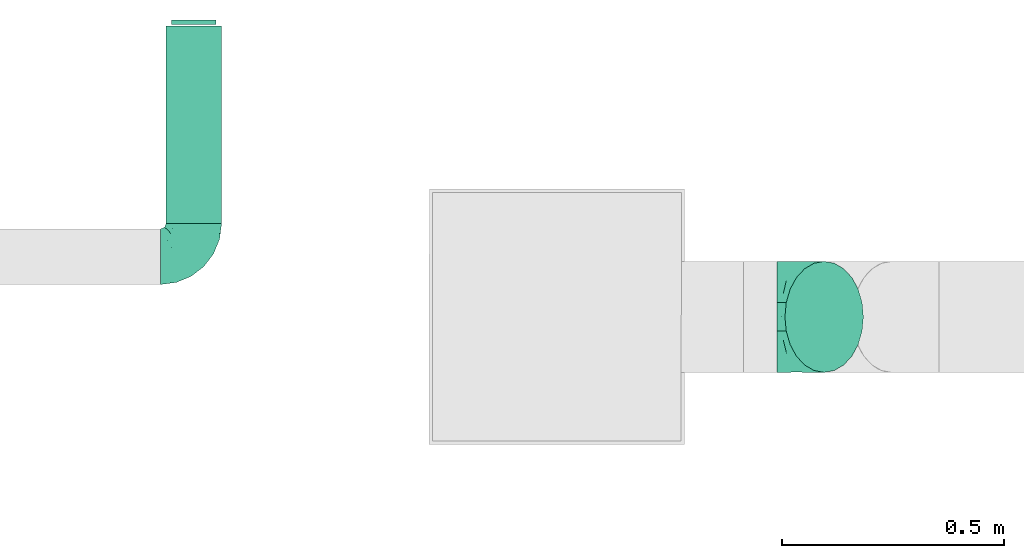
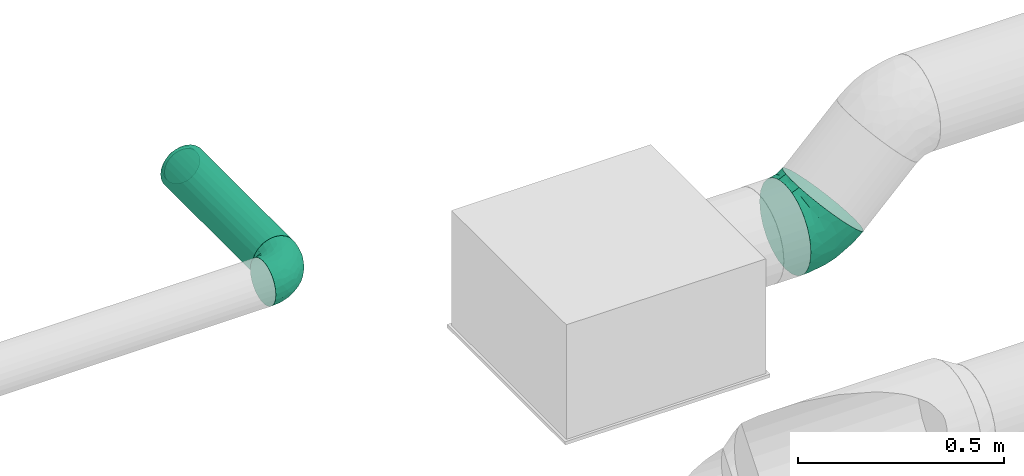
# One storey, part 47 of 63: 2 flow fittings, 1 flow segment, 1 flow terminal.
"""IFC2X3 building model written with IfcOpenShell, lengths in millimetres."""

import ifcopenshell
import ifcopenshell.guid

model = None  # the IFC model being written
_history = None  # IfcOwnerHistory: only IFC2X3 demands one
_inside = {}  # id of a spatial element -> (the spatial element, [elements in it])
_under = {}  # id of a project, library or spatial element -> (it, [spatial elements below it])
_declared = {}  # id of a project -> (the project, [libraries it declares])
_typed = {}  # id of a type object -> (the type object, [elements of that type])
_made_of = {}  # id of a material, layer set ... -> (it, [elements and type objects made of it])


def new_model(schema):
    """Start an empty IFC model of exactly this schema.

    Asked for "IFC4X3", IfcOpenShell would pick the latest addendum, in which some entities
    have other attributes; the version numbers below select the first issue.
    IFC2X3 requires an IfcOwnerHistory on every rooted entity: one is made here for all.
    """
    global model, _history
    if schema == "IFC4X3":
        model = ifcopenshell.file(schema_version=(4, 3, 0, 0))
    else:
        model = ifcopenshell.file(schema=schema)
    _inside.clear()
    _under.clear()
    _declared.clear()
    _typed.clear()
    _made_of.clear()
    _history = None
    if model.schema == "IFC2X3":
        org = make("IfcOrganization", Name="unknown")
        user = make(
            "IfcPersonAndOrganization",
            ThePerson=make("IfcPerson", FamilyName="unknown"),
            TheOrganization=org,
        )
        app = make(
            "IfcApplication",
            ApplicationDeveloper=org,
            Version="unknown",
            ApplicationFullName="unknown",
            ApplicationIdentifier="unknown",
        )
        _history = make(
            "IfcOwnerHistory",
            OwningUser=user,
            OwningApplication=app,
            ChangeAction="ADDED",
            CreationDate=0,
        )
    return model


def make(cls, **values):
    """One entity of the class cls with the attributes given. An attribute that is None is left unset."""
    return model.create_entity(
        cls, **{name: value for name, value in values.items() if value is not None}
    )


def entity(cls, *values):
    """Any entity or typed value of the class cls, its attributes in the order of the schema. None: left unset."""
    e = model.create_entity(cls)
    for i, value in enumerate(values):
        if value is not None:
            e[i] = value
    return e


def rooted(cls, **values):
    """An entity with a GlobalId (a new one), such as an element, a storey or a relation."""
    return make(cls, GlobalId=ifcopenshell.guid.new(), OwnerHistory=_history, **values)


def si_unit(unit_type, name, prefix=None):
    """IfcSIUnit, for example si_unit("LENGTHUNIT", "METRE", prefix="MILLI")."""
    return make("IfcSIUnit", UnitType=unit_type, Prefix=prefix, Name=name)


def converted_unit(unit_type, name, factor, base, dimensions=None, offset=None):
    """IfcConversionBasedUnit, such as the inch: factor (a typed value) times the base unit."""
    return make(
        "IfcConversionBasedUnit"
        if offset is None
        else "IfcConversionBasedUnitWithOffset",
        ConversionOffset=offset,
        Dimensions=None
        if dimensions is None
        else entity("IfcDimensionalExponents", *dimensions),
        UnitType=unit_type,
        Name=name,
        ConversionFactor=make(
            "IfcMeasureWithUnit", ValueComponent=factor, UnitComponent=base
        ),
    )


def derived_unit(unit_type, elements):
    """IfcDerivedUnit: a product of units, each with its exponent."""
    return make(
        "IfcDerivedUnit",
        Elements=[
            make("IfcDerivedUnitElement", Unit=unit, Exponent=power)
            for unit, power in elements
        ],
        UnitType=unit_type,
    )


def assignment(units):
    """IfcUnitAssignment: the units of a project."""
    return None if units is None else make("IfcUnitAssignment", Units=units)


def point(xyz):
    """IfcCartesianPoint."""
    return None if xyz is None else make("IfcCartesianPoint", Coordinates=xyz)


def direction(xyz):
    """IfcDirection."""
    return None if xyz is None else make("IfcDirection", DirectionRatios=xyz)


def frame(location, z_axis=None, x_axis=None):
    """IfcAxis2Placement3D, a coordinate frame: its origin and axes. An axis left out is left unset."""
    return make(
        "IfcAxis2Placement3D",
        Location=point(location),
        Axis=direction(z_axis),
        RefDirection=direction(x_axis),
    )


def frame_2d(location, x_axis=None):
    """IfcAxis2Placement2D, a coordinate frame in the plane: its origin and x axis."""
    return make(
        "IfcAxis2Placement2D", Location=point(location), RefDirection=direction(x_axis)
    )


def origin_with_axes():
    """The frame at (0, 0, 0) with the z axis (0, 0, 1) and the x axis (1, 0, 0) written out."""
    return frame((0.0, 0.0, 0.0), z_axis=(0.0, 0.0, 1.0), x_axis=(1.0, 0.0, 0.0))


def origin_2d_with_axis():
    """The frame at (0, 0) in the plane with the x axis (1, 0) written out."""
    return frame_2d((0.0, 0.0), x_axis=(1.0, 0.0))


def place(relative_to, where):
    """IfcLocalPlacement: puts the frame where relative to a parent placement (None: the world)."""
    return make(
        "IfcLocalPlacement", PlacementRelTo=relative_to, RelativePlacement=where
    )


def context(
    kind, dimensions, precision=None, world=None, true_north=None, identifier=None
):
    """IfcGeometricRepresentationContext, for example the 3D "Model" context."""
    return make(
        "IfcGeometricRepresentationContext",
        ContextIdentifier=identifier,
        ContextType=kind,
        CoordinateSpaceDimension=dimensions,
        Precision=precision,
        WorldCoordinateSystem=world,
        TrueNorth=true_north,
    )


def subcontext(parent, identifier, kind, view, scale=None):
    """IfcGeometricRepresentationSubContext, for example "Body" below "Model"."""
    return make(
        "IfcGeometricRepresentationSubContext",
        ContextIdentifier=identifier,
        ContextType=kind,
        ParentContext=parent,
        TargetScale=scale,
        TargetView=view,
    )


def project(units=None, contexts=None):
    """IfcProject with its units and contexts."""
    return rooted(
        "IfcProject",
        Name="project",
        RepresentationContexts=contexts,
        UnitsInContext=assignment(units),
    )


def spatial(cls, under=None, at=None, **own):
    """A site, building, storey or space (cls), placed at a placement, below another one or the project."""
    s = rooted(cls, ObjectPlacement=at, **own)
    if under is not None:
        _under.setdefault(under.id(), (under, []))[1].append(s)
    return s


def profile(cls, at=None, kind="AREA", **sizes):
    """A parametric profile (cls). Its sizes go by their IFC names, for example OverallWidth=200.0."""
    return make(cls, ProfileType=kind, Position=at, **sizes)


def hollow_circle(**sizes):
    """IfcCircleHollowProfileDef."""
    return profile("IfcCircleHollowProfileDef", **sizes)


def extrude(swept, where, along, depth):
    """IfcExtrudedAreaSolid: the profile swept, set in the frame where, extruded along a direction by depth."""
    return make(
        "IfcExtrudedAreaSolid",
        SweptArea=swept,
        Position=where,
        ExtrudedDirection=direction(along),
        Depth=depth,
    )


def faces_of(points, faces, orient=None, outer=None):
    """IfcFace entities. A face is a list of loops; a loop is a list of indices into points, from 0.

    orient and outer hold one flag for each loop. By default every Orientation is true, the
    first loop of a face is its IfcFaceOuterBound and the others are IfcFaceBound.
    """
    made = []
    for i, loops in enumerate(faces):
        bounds = []
        for j, loop in enumerate(loops):
            is_outer = j == 0 if outer is None else outer[i][j]
            bounds.append(
                make(
                    "IfcFaceOuterBound" if is_outer else "IfcFaceBound",
                    Bound=make("IfcPolyLoop", Polygon=[points[k] for k in loop]),
                    Orientation=True if orient is None else orient[i][j],
                )
            )
        made.append(make("IfcFace", Bounds=bounds))
    return made


def open_shell(faces, orient=None, outer=None):
    """The faces of one IfcOpenShell. surface_model builds it on its shared points."""
    return ("IfcOpenShell", faces, orient, outer)


def surface_model(cls, points, shells):
    """IfcFaceBasedSurfaceModel or IfcShellBasedSurfaceModel (cls): surfaces that need not close."""
    shared = [point(p) for p in points]
    made = [make(c, CfsFaces=faces_of(shared, fs, o, b)) for c, fs, o, b in shells]
    if cls == "IfcFaceBasedSurfaceModel":
        return make(cls, FbsmFaces=made)
    return make(cls, SbsmBoundary=made)


def shape(context_of_items, identifier, shape_type, items):
    """IfcShapeRepresentation: the items that make up one representation, for example the "Body"."""
    return make(
        "IfcShapeRepresentation",
        ContextOfItems=context_of_items,
        RepresentationIdentifier=identifier,
        RepresentationType=shape_type,
        Items=items,
    )


def source(mapping_origin, context_of_items, identifier, shape_type, items):
    """IfcRepresentationMap: a shape defined once, which mapped items show again and again."""
    return make(
        "IfcRepresentationMap",
        MappingOrigin=mapping_origin,
        MappedRepresentation=shape(context_of_items, identifier, shape_type, items),
    )


def transform(
    local_origin,
    x_axis=None,
    y_axis=None,
    z_axis=None,
    scale=None,
    scale2=None,
    scale3=None,
    uniform=True,
):
    """IfcCartesianTransformationOperator3D, or its non-uniform kind. x_axis, y_axis, z_axis: its Axis1, 2, 3."""
    if uniform:
        return make(
            "IfcCartesianTransformationOperator3D",
            Axis1=direction(x_axis),
            Axis2=direction(y_axis),
            LocalOrigin=point(local_origin),
            Scale=scale,
            Axis3=direction(z_axis),
        )
    return make(
        "IfcCartesianTransformationOperator3DnonUniform",
        Axis1=direction(x_axis),
        Axis2=direction(y_axis),
        LocalOrigin=point(local_origin),
        Scale=scale,
        Axis3=direction(z_axis),
        Scale2=scale2,
        Scale3=scale3,
    )


def mapped(mapping_source, mapping_target):
    """IfcMappedItem: shows the shape of a source again, moved by a transform."""
    return make(
        "IfcMappedItem", MappingSource=mapping_source, MappingTarget=mapping_target
    )


def made_of(thing, what):
    """Note that an element or type object is made of a material, layer set ...; save() writes the relation."""
    if what is not None:
        _made_of.setdefault(what.id(), (what, []))[1].append(thing)
    return thing


def type_object(cls, material=None, **own):
    """A type object (cls), such as IfcWallType, which elements share."""
    return made_of(rooted(cls, **own), material)


def element(
    cls,
    number,
    at=None,
    inside=None,
    cuts=None,
    type_object=None,
    material=None,
    context=None,
    identifier="Body",
    shape_type=None,
    held_by="IfcProductDefinitionShape",
    body=None,
    shapes=None,
    **own,
):
    """One element of the class cls, such as IfcWall. Its Tag is "e" and its number.

    at: its placement. inside: the storey or other place that contains it. cuts: it is an
    opening in that element (IfcRelVoidsElement). A single representation is given by context,
    identifier, shape_type and body (its items); several are given by shapes. held_by: the class
    of the entity that holds the representations. save() writes the other relations.
    """
    e = rooted(cls, Tag="e%d" % number, ObjectPlacement=at, **own)
    if body is not None:
        shapes = [shape(context, identifier, shape_type, body)]
    if shapes is not None:
        e.Representation = make(held_by, Representations=shapes)
    if inside is not None:
        _inside.setdefault(inside.id(), (inside, []))[1].append(e)
    if cuts is not None:
        rooted(
            "IfcRelVoidsElement", RelatingBuildingElement=cuts, RelatedOpeningElement=e
        )
    if type_object is not None:
        _typed.setdefault(type_object.id(), (type_object, []))[1].append(e)
    return made_of(e, material)


def aggregate(whole, parts):
    """IfcRelAggregates: a whole, such as a stair, and the parts it consists of."""
    return rooted("IfcRelAggregates", RelatingObject=whole, RelatedObjects=parts)


def save(model, path):
    """Write the relations noted so far, then the file.

    IfcRelAggregates (storeys below a building ...), IfcRelContainedInSpatialStructure (elements
    in a storey), IfcRelDefinesByType, IfcRelAssociatesMaterial and IfcRelDeclares: one each for
    every whole, place, type object, material and project.
    """
    for whole, parts in _under.values():
        aggregate(whole, parts)
    for where, things in _inside.values():
        rooted(
            "IfcRelContainedInSpatialStructure",
            RelatedElements=things,
            RelatingStructure=where,
        )
    for kind, things in _typed.values():
        rooted("IfcRelDefinesByType", RelatedObjects=things, RelatingType=kind)
    for what, things in _made_of.values():
        rooted("IfcRelAssociatesMaterial", RelatedObjects=things, RelatingMaterial=what)
    for by, libraries in _declared.values():
        rooted("IfcRelDeclares", RelatingContext=by, RelatedDefinitions=libraries)
    model.write(path)


model = new_model("IFC2X3")

# Units and contexts
model_context = context("Model", 3, precision=0.01, world=frame((0.0, 4.29681676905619e-09, 0.0)), true_north=direction((4.01073788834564e-13, 1.0)))
plan_context = context("Plan", 3, precision=0.01, world=frame((0.0, 4.29681676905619e-09, 0.0)), true_north=direction((4.01073788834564e-13, 1.0)))
body_context = subcontext(model_context, "Body", "Model", "MODEL_VIEW")
ifc_project = project(units=[converted_unit("PLANEANGLEUNIT", "DEGREE", entity("IfcPositiveLengthMeasure", 0.0174532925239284), si_unit("PLANEANGLEUNIT", "RADIAN"), dimensions=[0, 0, 0, 0, 0, 0, 0]), si_unit("AREAUNIT", "SQUARE_METRE"), si_unit("LENGTHUNIT", "METRE", prefix="MILLI"), si_unit("MASSUNIT", "GRAM", prefix="KILO"), si_unit("POWERUNIT", "WATT"), si_unit("PRESSUREUNIT", "PASCAL"), si_unit("FORCEUNIT", "NEWTON", prefix="KILO"), si_unit("ELECTRICVOLTAGEUNIT", "VOLT"), si_unit("ELECTRICCURRENTUNIT", "AMPERE"), si_unit("THERMODYNAMICTEMPERATUREUNIT", "DEGREE_CELSIUS"), si_unit("TIMEUNIT", "SECOND"), si_unit("VOLUMEUNIT", "CUBIC_METRE"), derived_unit("LINEARVELOCITYUNIT", [(si_unit("LENGTHUNIT", "METRE"), 1), (si_unit("TIMEUNIT", "SECOND"), -1)]), derived_unit("VOLUMETRICFLOWRATEUNIT", [(si_unit("VOLUMEUNIT", "CUBIC_METRE"), 1), (si_unit("TIMEUNIT", "SECOND"), -1)]), derived_unit("THERMALTRANSMITTANCEUNIT", [(si_unit("POWERUNIT", "WATT"), 1), (si_unit("THERMODYNAMICTEMPERATUREUNIT", "KELVIN"), -1), (si_unit("AREAUNIT", "SQUARE_METRE"), -1)]), derived_unit("SOUNDPRESSUREUNIT", [(si_unit("PRESSUREUNIT", "PASCAL"), 1)])], contexts=[model_context, plan_context])

# Site, building, storey
site_placement = place(None, frame((0.0, -4.29681676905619e-09, 0.0), z_axis=(0.0, 0.0, 1.0), x_axis=(1.0, 0.0, 0.0)))
site = spatial("IfcSite", under=ifc_project, at=site_placement, CompositionType="ELEMENT")
building_placement = place(site_placement, frame((0.0, 4.29681676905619e-09, 0.0), z_axis=(0.0, 0.0, 1.0), x_axis=(1.0, 0.0, 0.0)))
building = spatial("IfcBuilding", under=site, at=building_placement, Name="mc-building", CompositionType="ELEMENT")
storey_placement = place(building_placement, frame((0.0, 0.0, 210900.0), z_axis=(0.0, 0.0, 1.0), x_axis=(1.0, 0.0, 0.0)))
storey = spatial("IfcBuildingStorey", under=building, at=storey_placement, Name="Nivå F", CompositionType="ELEMENT", Elevation=210900.0)

# Flow fittings
duct_fitting_type = type_object("IfcDuctFittingType", Name="magicirc_elbow_short_001", PredefinedType="BEND")
shared_shape_1 = source(origin_with_axes(), body_context, "Body", "SurfaceModel", [
    surface_model("IfcShellBasedSurfaceModel", [(-62.13204, 0.0, -125.0), (-62.13204, -32.35238, -120.74073), (-62.13204, 32.35238, -120.74073), (-62.13204, 62.5, -108.25318), (-62.13204, 88.38835, -88.38835), (-62.13204, 108.25318, -62.5), (-62.13204, 120.74073, -32.35238), (-62.13204, -62.5, -108.25318), (-62.13204, -88.38835, -88.38835), (-62.13204, -125.0, 0.0), (-62.13204, -108.25318, -62.5), (-62.13204, -120.74073, -32.35238), (-62.13204, 125.0, 0.0), (-62.13204, -120.74073, 32.35238), (-62.13204, 120.74073, 32.35238), (-62.13204, 108.25318, 62.5), (-62.13204, 32.35238, 120.74073), (-62.13204, 62.5, 108.25318), (-62.13204, 88.38835, 88.38835), (-62.13204, -88.38835, 88.38835), (-62.13204, -108.25318, 62.5), (-62.13204, -32.35238, 120.74073), (-62.13204, 0.0, 125.0), (-62.13204, -62.5, 108.25318), (-32.61257, 120.48054, -62.5), (-41.44261, 129.31057, -32.35238), (-44.45436, 132.32233, 0.0), (-41.44261, 129.31057, 32.35238), (-32.61257, 120.48054, 62.5), (-39.32094, -100.77129, 72.52866), (-25.3983, -115.58366, 40.92131), (-9.38975, -99.61313, 67.6303), (-40.71594, 99.20513, 81.38635), (-18.56602, 106.43398, 88.38835), (6.93461, -16.74165, 121.22697), (-29.92798, -19.88945, 122.8817), (-17.69423, -50.99343, 111.83063), (-28.63512, 12.8945, 124.68547), (-43.55871, 45.16564, 117.17454), (-19.1971, 46.34588, 119.14586), (20.11216, -107.05726, 35.36285), (37.22525, -89.79474, 60.1728), (-42.64489, 65.81413, 107.6176), (18.18237, -43.89615, 109.72868), (-48.14682, 116.23669, 52.46898), (11.13029, 29.36587, 124.68547), (-8.4822, -119.71595, 0.0), (17.31186, -111.89141, 0.0), (-27.44697, 77.92943, 103.54984), (-1.13628, 62.73759, 117.17454), (-0.26019, 88.12816, 108.25318), (29.58221, -71.41779, 87.09722), (2.27359, -83.55864, 84.32151), (46.20365, -49.09439, 98.73245), (43.10591, -104.06687, 0.0), (-28.63512, 12.89449, -124.68547), (-29.92797, -19.88945, -122.8817), (11.13029, 29.36586, -124.68547), (-19.1971, 46.34588, -119.14586), (-43.55871, 45.16564, -117.17454), (-35.69649, 74.51237, -103.54983), (-25.3983, -115.58366, -40.92131), (-48.14682, 116.23669, -52.46898), (-39.32094, -100.77129, -72.52866), (-16.38313, 76.69211, -107.6176), (-18.56602, 106.43398, -88.38835), (-0.26019, 88.12816, -108.25318), (-17.69423, -50.99343, -111.83063), (6.93461, -16.74165, -121.22697), (-1.13628, 62.73759, -117.17454), (48.5695, -23.54609, -111.83063), (35.22623, 7.0983, -122.8817), (-9.38975, -99.61313, -67.63031), (2.04406, -67.38589, -98.73245), (29.58221, -71.41778, -87.09723), (43.93399, 43.934, -125.0), (106.43399, -18.56599, 88.38835), (132.32235, -44.45434, 0.0), (21.05739, 66.81058, -120.74073), (88.12817, -0.26017, 108.25318), (66.81057, 21.05741, -120.74073), (106.43399, -18.56599, -88.38835), (88.12817, -0.26017, -108.25318), (129.31058, -41.44258, -32.35238), (120.48055, -32.61255, -62.5), (21.05739, 66.81058, 120.74073), (43.93399, 43.934, 125.0), (129.31058, -41.44258, 32.35238), (120.48055, -32.61255, 62.5), (66.81057, 21.05741, 120.74073), (-31.08246, -121.94188, 0.0), (35.22622, 7.09831, 122.8817), (-25.98217, -78.69805, 94.74512), (-3.43913, -67.17105, 100.02812), (77.07669, -63.79755, 67.6303), (61.9235, -89.5906, 35.66991), (-52.56496, 126.90301, 0.0), (99.68931, -63.77067, 40.92131), (48.5695, -23.54609, 111.83062), (99.06018, -43.45194, 72.52866), (74.0201, -37.27574, 94.74512), (108.20455, -64.2473, 0.0), (90.64979, -78.65413, 0.0), (66.87785, -91.36049, 0.0), (19.56361, -107.13664, -35.66991), (-41.35812, 98.93914, -81.38635), (-25.98217, -78.69805, -94.74512), (61.47949, -89.92235, -35.36285), (18.18239, -43.89616, -109.72867), (57.47721, -60.69254, -84.32152), (74.02009, -37.27574, -94.74513), (77.07669, -63.79755, -67.6303), (37.17223, -89.81669, -60.17279), (99.68931, -63.77066, -40.92131), (99.06018, -43.45194, -72.52866), (49.92893, -45.06527, -100.02812)], [open_shell([[[0, 1, 2]], [[3, 2, 4]], [[1, 5, 2]], [[4, 2, 5]], [[5, 1, 6]], [[7, 8, 1]], [[9, 1, 8]], [[10, 11, 8]], [[9, 8, 11]], [[9, 6, 1]], [[9, 12, 6]], [[12, 13, 14]], [[15, 14, 16]], [[16, 17, 18]], [[15, 16, 18]], [[16, 14, 19]], [[20, 19, 13]], [[19, 14, 13]], [[21, 22, 23]], [[19, 23, 22]], [[19, 22, 16]], [[9, 13, 12]], [[24, 25, 26]], [[26, 27, 28]], [[29, 30, 31]], [[32, 33, 28]], [[30, 20, 13]], [[34, 35, 36]], [[21, 35, 22]], [[21, 23, 36]], [[16, 22, 37]], [[38, 37, 39]], [[31, 40, 41]], [[42, 17, 38]], [[38, 17, 16]], [[43, 34, 36]], [[35, 37, 22]], [[14, 15, 44]], [[42, 32, 18]], [[29, 19, 20]], [[40, 31, 30]], [[37, 45, 39]], [[45, 37, 34]], [[40, 46, 47]], [[42, 18, 17]], [[33, 32, 48]], [[27, 44, 28]], [[48, 39, 49]], [[33, 48, 50]], [[44, 32, 28]], [[18, 32, 15]], [[36, 35, 21]], [[37, 35, 34]], [[41, 51, 52]], [[14, 44, 27]], [[32, 44, 15]], [[37, 38, 16]], [[42, 39, 48]], [[39, 42, 38]], [[42, 48, 32]], [[48, 49, 50]], [[45, 49, 39]], [[30, 29, 20]], [[53, 43, 51]], [[46, 40, 30]], [[47, 54, 40]], [[41, 52, 31]], [[0, 2, 55]], [[56, 1, 0]], [[57, 55, 58]], [[59, 60, 58]], [[10, 61, 11]], [[3, 4, 60]], [[62, 6, 25]], [[61, 10, 63]], [[64, 65, 66]], [[1, 56, 67]], [[8, 63, 10]], [[7, 1, 67]], [[56, 55, 68]], [[25, 24, 62]], [[69, 64, 66]], [[2, 3, 59]], [[59, 55, 2]], [[69, 57, 58]], [[70, 68, 71]], [[55, 57, 68]], [[55, 56, 0]], [[67, 56, 68]], [[57, 71, 68]], [[6, 62, 5]], [[60, 59, 3]], [[55, 59, 58]], [[64, 58, 60]], [[58, 64, 69]], [[61, 63, 72]], [[72, 73, 74]], [[75, 76, 77]], [[66, 26, 78]], [[78, 79, 75]], [[24, 66, 65]], [[66, 24, 26]], [[80, 81, 82]], [[80, 75, 81]], [[81, 83, 84]], [[83, 81, 77]], [[75, 77, 81]], [[26, 28, 50]], [[50, 85, 26]], [[50, 28, 33]], [[26, 85, 86]], [[87, 76, 88]], [[77, 76, 87]], [[79, 86, 89]], [[76, 75, 79]], [[86, 79, 26]], [[78, 26, 79]], [[90, 46, 30]], [[91, 45, 34]], [[23, 92, 36]], [[52, 93, 92]], [[94, 41, 95]], [[23, 19, 92]], [[96, 14, 27]], [[40, 95, 41]], [[96, 12, 14]], [[94, 95, 97]], [[40, 54, 95]], [[98, 89, 91]], [[99, 88, 76]], [[89, 98, 79]], [[88, 99, 97]], [[88, 97, 87]], [[98, 100, 79]], [[53, 94, 100]], [[97, 101, 87]], [[85, 50, 49]], [[41, 94, 51]], [[30, 13, 90]], [[26, 96, 27]], [[95, 102, 97]], [[95, 54, 103]], [[86, 91, 89]], [[86, 85, 45]], [[45, 85, 49]], [[34, 43, 98]], [[29, 92, 19]], [[79, 100, 76]], [[52, 92, 31]], [[95, 103, 102]], [[53, 100, 98]], [[99, 100, 94]], [[45, 91, 86]], [[98, 91, 34]], [[13, 9, 90]], [[101, 97, 102]], [[101, 77, 87]], [[92, 29, 31]], [[100, 99, 76]], [[97, 99, 94]], [[93, 36, 92]], [[51, 43, 93]], [[51, 93, 52]], [[43, 36, 93]], [[43, 53, 98]], [[94, 53, 51]], [[104, 46, 61]], [[78, 75, 57]], [[4, 105, 60]], [[73, 72, 106]], [[80, 82, 70]], [[61, 90, 11]], [[83, 77, 101]], [[106, 7, 67]], [[107, 102, 103]], [[104, 54, 47]], [[72, 104, 61]], [[106, 8, 7]], [[68, 108, 67]], [[6, 12, 96]], [[109, 110, 111]], [[96, 26, 25]], [[112, 72, 74]], [[113, 83, 101]], [[82, 81, 110]], [[113, 84, 83]], [[64, 105, 65]], [[4, 5, 105]], [[114, 81, 84]], [[110, 109, 115]], [[70, 82, 110]], [[66, 78, 69]], [[75, 80, 71]], [[111, 114, 113]], [[108, 68, 70]], [[113, 101, 102]], [[107, 104, 112]], [[107, 111, 113]], [[111, 107, 112]], [[71, 57, 75]], [[104, 47, 46]], [[96, 25, 6]], [[114, 110, 81]], [[107, 54, 104]], [[73, 106, 67]], [[63, 106, 72]], [[62, 105, 5]], [[65, 105, 24]], [[70, 71, 80]], [[90, 61, 46]], [[90, 9, 11]], [[72, 112, 104]], [[112, 74, 109]], [[105, 62, 24]], [[57, 69, 78]], [[64, 60, 105]], [[113, 114, 84]], [[110, 114, 111]], [[106, 63, 8]], [[115, 70, 110]], [[73, 108, 74]], [[102, 107, 113]], [[103, 54, 107]], [[112, 109, 111]], [[74, 108, 115]], [[74, 115, 109]], [[108, 70, 115]], [[108, 73, 67]]])]),
])
flow_fitting_1_placement = place(storey_placement, frame((532859.34668, 460995.59361, 3960.01264), z_axis=(-0.000647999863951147, -0.999999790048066, 0.0), x_axis=(0.999999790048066, -0.000647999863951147, 0.0)))
element("IfcFlowFitting", 1, at=flow_fitting_1_placement, inside=storey, type_object=duct_fitting_type, Name="magicirc_elbow_short_001", context=body_context, shape_type="MappedRepresentation", body=[
    mapped(shared_shape_1, transform((0.0, 0.0, 0.0), scale=1.0)),
])
shared_shape_2 = source(origin_with_axes(), body_context, "Body", "SurfaceModel", [
    surface_model("IfcShellBasedSurfaceModel", [(-75.0, 31.25, -54.12659), (-75.0, 16.17619, -60.37037), (-75.0, 0.0, -62.5), (-75.0, 44.19417, -44.19417), (-75.0, 60.37037, -16.17619), (-75.0, 54.12659, -31.25), (-75.0, -60.37037, -16.17619), (-75.0, 16.17619, 60.37037), (-75.0, -31.25, -54.12659), (-75.0, -44.19417, -44.19417), (-75.0, -16.17619, -60.37037), (-75.0, -54.12659, -31.25), (-75.0, -62.5, 0.0), (-75.0, -60.37037, 16.17619), (-75.0, 60.37037, 16.17619), (-75.0, 54.12659, 31.25), (-75.0, 44.19417, 44.19417), (-75.0, 31.25, 54.12659), (-75.0, -31.25, 54.12659), (-75.0, -54.12659, 31.25), (-75.0, -44.19417, 44.19417), (-75.0, -16.17619, 60.37037), (-75.0, 0.0, 62.5), (-75.0, 62.5, 0.0), (0.0, 75.0, -62.5), (-16.17619, 75.0, -60.37037), (-31.25, 75.0, -54.12659), (-44.19417, 75.0, -44.19417), (-54.12659, 75.0, -31.25), (-60.37037, 75.0, -16.17619), (60.37037, 75.0, -16.17619), (16.17619, 75.0, -60.37037), (44.19417, 75.0, -44.19417), (31.25, 75.0, -54.12659), (54.12659, 75.0, -31.25), (60.37037, 75.0, 16.17619), (62.5, 75.0, 0.0), (-60.37037, 75.0, 16.17619), (31.25, 75.0, 54.12659), (-62.5, 75.0, 0.0), (-44.19417, 75.0, 44.19417), (-54.12659, 75.0, 31.25), (-31.25, 75.0, 54.12659), (-16.17619, 75.0, 60.37037), (44.19417, 75.0, 44.19417), (54.12659, 75.0, 31.25), (0.0, 75.0, 62.5), (16.17619, 75.0, 60.37037), (-54.41965, 4.9076, 62.46962), (-43.07663, -50.3477, 30.86167), (-61.32051, -50.97518, 35.09607), (-52.17674, -57.92087, 17.95277), (-62.43154, 17.51182, 60.37632), (-58.69142, 36.21142, 53.12594), (-36.15787, -34.17169, 47.28033), (-49.20005, -26.98142, 54.7225), (-52.44662, -40.43207, 45.71912), (-39.41238, -57.8148, 0.0), (-59.55287, -60.46635, 0.0), (-21.2417, 53.89104, 60.07355), (-4.92681, 55.18917, 62.46196), (-37.31129, -10.64159, 59.67821), (-23.32885, -22.63143, 51.46564), (45.00046, 26.14997, 30.48254), (40.43207, 52.44662, 45.71912), (34.17169, 36.15786, 47.28034), (-58.01497, -11.22233, 61.15858), (7.98859, -33.15284, 0.0), (-5.07758, -42.02269, 12.0817), (-6.25, -44.07849, 0.0), (-65.77412, 55.39531, 32.58597), (19.31816, -1.61632, 41.74415), (-0.01407, -20.25658, 42.05996), (7.98051, -25.05892, 29.70329), (-50.43905, 21.50015, 60.38226), (-32.62304, 11.81495, 62.49067), (-75.0, 23.71309, 57.24848), (-19.16694, -47.63044, 18.35967), (-22.83119, -50.94664, 0.0), (-12.81315, 40.08766, 62.39137), (-64.88508, 64.88508, 14.91055), (-66.16116, 66.16116, 0.0), (-64.3895, 48.63961, 41.66718), (-36.17361, 59.29902, 53.00354), (-7.44224, -37.28377, 27.67087), (57.92087, 52.17674, 17.95277), (11.22233, 58.01496, 61.15858), (26.98142, 49.20005, 54.7225), (50.97518, 61.32051, 35.09607), (-9.68247, 19.8451, 61.61349), (-20.02482, 0.98755, 60.08782), (54.54584, 33.25196, 13.12349), (50.3477, 43.07663, 30.86167), (47.63044, 19.16693, 18.35967), (60.46635, 59.55287, 0.0), (57.8148, 39.41238, 0.0), (-52.03087, 52.03087, 45.81022), (-40.99804, 41.45559, 56.25325), (-59.75449, 61.67073, 30.1459), (-48.63961, 64.3895, 41.66718), (22.63143, 23.32884, 51.46564), (10.64159, 37.31128, 59.67821), (-26.35257, 31.26676, 61.76071), (36.04195, 20.50324, 39.18089), (33.15284, -7.98859, 0.0), (44.07849, 6.25, 0.0), (39.06297, 0.98467, 13.73156), (-35.51069, -53.77784, 18.50898), (-26.05421, -44.88845, 30.60318), (18.26925, -21.80204, 19.36618), (28.10027, -8.65036, 23.85868), (-20.50325, -36.04195, 39.18089), (28.65228, -13.7486, 11.37845), (22.22718, -22.22718, 0.0), (50.94664, 22.83119, 0.0), (38.74756, 9.48751, 27.21296), (-36.83854, 22.71454, 61.65056), (-0.76697, 40.09085, 62.10319), (9.76185, 15.68787, 55.64785), (-1.52477, 1.52476, 55.41192), (10.21292, 0.88545, 49.67113), (-1.51037, -10.53311, 49.79781), (-14.78892, -10.16007, 55.20876), (6.13387, -33.19831, 16.65882), (-53.89105, 21.24169, -60.07355), (-17.51182, 62.43153, -60.37632), (-23.71309, 75.0, -57.24848), (-58.01496, -11.22234, -61.15858), (-33.25196, -54.54584, -13.12349), (-52.17674, -57.92087, -17.95277), (-55.18917, 4.92681, -62.46196), (-19.84509, 9.68247, -61.61349), (-11.81496, 32.62304, -62.49067), (-0.98756, 20.02482, -60.08782), (-61.67073, 59.75449, -30.1459), (-52.03087, 52.03087, -45.81022), (-64.38951, 48.63961, -41.66718), (47.63044, 19.16693, -18.35967), (42.02269, 5.07758, -12.0817), (-43.07663, -50.3477, -30.86167), (-19.16693, -47.63044, -18.35967), (-23.32884, -22.63143, -51.46564), (-20.50325, -36.04195, -39.18089), (-36.15787, -34.1717, -47.28033), (57.92087, 52.17674, -17.95277), (-31.26676, 26.35257, -61.76071), (-61.32051, -50.97518, -35.09607), (-59.29902, 36.17361, -53.00354), (-55.39531, 65.77412, -32.58597), (-52.44662, -40.43207, -45.71912), (-49.20005, -26.98142, -54.7225), (-26.14997, -45.00046, -30.48254), (-40.08766, 12.81314, -62.39137), (-4.90759, 54.41963, -62.46962), (40.43207, 52.44662, -45.71912), (-64.88508, 64.88508, -14.91055), (53.77784, 35.51069, -18.50898), (-48.63961, 64.3895, -41.66718), (26.98142, 49.20005, -54.7225), (-0.98468, -39.06297, -13.73156), (-21.50015, 50.43905, -60.38226), (10.64159, 37.31128, -59.67821), (11.22233, 58.01496, -61.15858), (50.97518, 61.32051, -35.09607), (-36.21142, 58.69142, -53.12594), (1.61632, -19.31817, -41.74414), (20.25658, 0.01407, -42.05996), (25.05891, -7.98052, -29.70329), (37.28376, 7.44224, -27.67087), (21.80204, -18.26925, -19.36618), (33.19831, -6.13387, -16.65882), (22.63143, 23.32884, -51.46564), (50.3477, 43.07663, -30.86167), (-41.45559, 40.99803, -56.25325), (34.17169, 36.15787, -47.28033), (-37.31129, -10.6416, -59.67821), (44.88845, 26.05421, -30.60318), (8.65035, -28.10027, -23.85868), (36.04195, 20.50325, -39.1809), (13.7486, -28.65228, -11.37845), (-9.48751, -38.74756, -27.21297), (-22.71455, 36.83854, -61.65056), (-40.09085, 0.76697, -62.10319), (-15.68786, -9.76186, -55.64784), (-1.52477, 1.52476, -55.41192), (-0.88545, -10.21292, -49.67113), (10.53311, 1.51037, -49.79781), (10.16006, 14.78892, -55.20876)], [open_shell([[[0, 1, 2]], [[3, 0, 2]], [[4, 5, 3]], [[6, 3, 2]], [[6, 7, 3]], [[8, 9, 10]], [[6, 10, 9]], [[11, 6, 9]], [[6, 2, 10]], [[12, 13, 6]], [[7, 4, 3]], [[4, 7, 14]], [[15, 14, 16]], [[14, 7, 17]], [[16, 14, 17]], [[18, 7, 6]], [[19, 20, 13]], [[13, 20, 6]], [[21, 22, 18]], [[18, 6, 20]], [[7, 18, 22]], [[14, 23, 4]], [[24, 25, 26]], [[24, 26, 27]], [[27, 28, 29]], [[24, 27, 30]], [[30, 27, 29]], [[31, 32, 33]], [[32, 31, 30]], [[32, 30, 34]], [[31, 24, 30]], [[30, 35, 36]], [[30, 29, 35]], [[37, 38, 39]], [[40, 37, 41]], [[42, 43, 37]], [[42, 37, 40]], [[38, 37, 43]], [[35, 44, 45]], [[35, 39, 44]], [[38, 46, 47]], [[38, 44, 39]], [[46, 38, 43]], [[39, 35, 29]], [[7, 22, 48]], [[49, 50, 51]], [[52, 53, 17]], [[54, 55, 56]], [[57, 51, 58]], [[43, 59, 60]], [[61, 55, 62]], [[63, 64, 65]], [[50, 20, 19]], [[56, 55, 18]], [[66, 22, 21]], [[67, 68, 69]], [[70, 14, 15]], [[55, 61, 66]], [[71, 72, 73]], [[74, 48, 75]], [[21, 18, 55]], [[17, 53, 16]], [[17, 76, 52]], [[77, 78, 69]], [[79, 60, 59]], [[23, 80, 81]], [[55, 54, 62]], [[23, 14, 80]], [[82, 70, 15]], [[18, 20, 56]], [[15, 16, 82]], [[42, 83, 59]], [[73, 72, 84]], [[51, 13, 58]], [[51, 19, 13]], [[45, 85, 35]], [[64, 44, 38]], [[86, 87, 47]], [[45, 44, 88]], [[38, 47, 87]], [[89, 75, 90]], [[85, 45, 88]], [[91, 92, 93]], [[87, 64, 38]], [[52, 76, 7]], [[85, 94, 35]], [[42, 40, 83]], [[91, 95, 85]], [[83, 96, 97]], [[37, 98, 41]], [[80, 98, 37]], [[98, 96, 99]], [[100, 87, 101]], [[81, 80, 39]], [[77, 69, 68]], [[42, 59, 43]], [[59, 83, 97]], [[102, 75, 89]], [[100, 103, 65]], [[40, 41, 99]], [[43, 60, 46]], [[104, 105, 106]], [[107, 49, 51]], [[86, 47, 46]], [[77, 107, 78]], [[57, 78, 107]], [[49, 107, 108]], [[73, 109, 110]], [[108, 84, 111]], [[104, 112, 113]], [[103, 100, 71]], [[114, 91, 93]], [[60, 86, 46]], [[114, 93, 105]], [[115, 93, 63]], [[93, 115, 106]], [[66, 48, 22]], [[116, 75, 102]], [[74, 116, 97]], [[82, 53, 96]], [[99, 83, 40]], [[96, 53, 97]], [[79, 59, 102]], [[60, 117, 86]], [[65, 64, 87]], [[88, 64, 92]], [[50, 56, 20]], [[56, 49, 108]], [[48, 61, 75]], [[90, 75, 61]], [[118, 89, 119]], [[79, 117, 60]], [[119, 120, 118]], [[71, 110, 115]], [[119, 121, 120]], [[122, 121, 119]], [[72, 62, 111]], [[90, 122, 119]], [[72, 111, 84]], [[71, 120, 121]], [[74, 97, 53]], [[59, 97, 102]], [[13, 12, 58]], [[94, 85, 95]], [[94, 36, 35]], [[87, 86, 101]], [[55, 66, 21]], [[48, 66, 61]], [[98, 99, 41]], [[83, 99, 96]], [[53, 82, 16]], [[70, 96, 98]], [[102, 89, 79]], [[117, 89, 101]], [[89, 117, 79]], [[86, 117, 101]], [[96, 70, 82]], [[70, 98, 80]], [[80, 14, 70]], [[39, 80, 37]], [[51, 50, 19]], [[56, 50, 49]], [[64, 88, 44]], [[85, 88, 92]], [[52, 48, 74]], [[48, 52, 7]], [[52, 74, 53]], [[107, 51, 57]], [[108, 107, 77]], [[77, 68, 84]], [[108, 111, 54]], [[77, 84, 108]], [[84, 123, 73]], [[109, 73, 123]], [[71, 73, 110]], [[113, 109, 123]], [[93, 106, 105]], [[109, 112, 110]], [[92, 63, 93]], [[112, 106, 110]], [[113, 112, 109]], [[106, 112, 104]], [[71, 115, 103]], [[110, 106, 115]], [[64, 63, 92]], [[103, 115, 63]], [[67, 113, 123]], [[84, 68, 123]], [[68, 67, 123]], [[95, 91, 114]], [[92, 91, 85]], [[100, 65, 87]], [[63, 65, 103]], [[108, 54, 56]], [[62, 54, 111]], [[97, 116, 102]], [[74, 75, 116]], [[122, 61, 62]], [[89, 90, 119]], [[61, 122, 90]], [[121, 62, 72]], [[62, 121, 122]], [[71, 121, 72]], [[71, 100, 120]], [[118, 120, 100]], [[100, 101, 118]], [[89, 118, 101]], [[0, 124, 1]], [[125, 126, 25]], [[10, 2, 127]], [[128, 57, 129]], [[1, 130, 2]], [[131, 132, 133]], [[134, 135, 136]], [[137, 105, 138]], [[5, 136, 3]], [[128, 139, 140]], [[5, 4, 134]], [[141, 142, 143]], [[144, 34, 30]], [[145, 132, 131]], [[129, 11, 146]], [[0, 3, 147]], [[129, 58, 6]], [[148, 29, 28]], [[149, 8, 150]], [[151, 149, 143]], [[9, 8, 149]], [[8, 10, 150]], [[152, 130, 124]], [[9, 146, 11]], [[25, 24, 153]], [[10, 127, 150]], [[11, 129, 6]], [[33, 32, 154]], [[23, 81, 155]], [[137, 156, 114]], [[39, 29, 155]], [[155, 134, 4]], [[28, 157, 148]], [[31, 33, 158]], [[67, 69, 159]], [[27, 157, 28]], [[26, 126, 125]], [[147, 124, 0]], [[160, 153, 132]], [[158, 161, 162]], [[163, 32, 34]], [[27, 26, 164]], [[165, 166, 167]], [[31, 162, 24]], [[168, 167, 166]], [[1, 124, 130]], [[137, 114, 105]], [[113, 169, 170]], [[161, 158, 171]], [[154, 158, 33]], [[172, 163, 144]], [[147, 135, 173]], [[144, 94, 95]], [[158, 174, 171]], [[141, 150, 175]], [[154, 174, 158]], [[124, 147, 173]], [[125, 164, 26]], [[95, 114, 156]], [[155, 4, 23]], [[156, 172, 144]], [[144, 30, 94]], [[172, 156, 176]], [[167, 169, 177]], [[176, 168, 178]], [[67, 179, 113]], [[142, 141, 165]], [[78, 128, 140]], [[30, 36, 94]], [[78, 140, 69]], [[180, 140, 151]], [[140, 180, 159]], [[162, 153, 24]], [[181, 132, 145]], [[160, 181, 173]], [[157, 164, 135]], [[136, 147, 3]], [[135, 164, 173]], [[152, 124, 145]], [[130, 182, 127]], [[143, 149, 150]], [[146, 149, 139]], [[163, 154, 32]], [[154, 172, 176]], [[153, 161, 132]], [[133, 132, 161]], [[183, 131, 184]], [[152, 182, 130]], [[184, 185, 183]], [[165, 177, 180]], [[184, 186, 185]], [[187, 186, 184]], [[166, 171, 178]], [[133, 187, 184]], [[166, 178, 168]], [[165, 185, 186]], [[160, 173, 164]], [[124, 173, 145]], [[58, 129, 57]], [[58, 12, 6]], [[130, 127, 2]], [[150, 127, 175]], [[158, 162, 31]], [[153, 162, 161]], [[134, 136, 5]], [[147, 136, 135]], [[164, 157, 27]], [[148, 135, 134]], [[145, 131, 152]], [[182, 131, 175]], [[131, 182, 152]], [[127, 182, 175]], [[135, 148, 157]], [[148, 134, 155]], [[39, 155, 81]], [[155, 29, 148]], [[144, 163, 34]], [[154, 163, 172]], [[149, 146, 9]], [[129, 146, 139]], [[125, 153, 160]], [[153, 125, 25]], [[125, 160, 164]], [[156, 144, 95]], [[176, 156, 137]], [[137, 138, 168]], [[176, 178, 174]], [[137, 168, 176]], [[168, 170, 167]], [[169, 167, 170]], [[165, 167, 177]], [[138, 104, 170]], [[140, 159, 69]], [[169, 179, 177]], [[139, 151, 140]], [[179, 159, 177]], [[113, 179, 169]], [[159, 179, 67]], [[165, 180, 142]], [[177, 159, 180]], [[149, 151, 139]], [[142, 180, 151]], [[57, 128, 78]], [[168, 138, 170]], [[104, 138, 105]], [[104, 113, 170]], [[139, 128, 129]], [[141, 143, 150]], [[151, 143, 142]], [[176, 174, 154]], [[171, 174, 178]], [[173, 181, 145]], [[160, 132, 181]], [[187, 161, 171]], [[131, 133, 184]], [[161, 187, 133]], [[186, 171, 166]], [[171, 186, 187]], [[165, 186, 166]], [[165, 141, 185]], [[183, 185, 141]], [[141, 175, 183]], [[131, 183, 175]]])]),
])
flow_fitting_2_placement = place(storey_placement, frame((531484.09314, 461130.9708, 4200.0), z_axis=(0.0, 0.0, 1.0), x_axis=(1.0, 0.0, 0.0)))
element("IfcFlowFitting", 2, at=flow_fitting_2_placement, inside=storey, type_object=duct_fitting_type, Name="magicirc_elbow_short_001", context=body_context, shape_type="MappedRepresentation", body=[
    mapped(shared_shape_2, transform((0.0, 0.0, 0.0), scale=1.0)),
])

# Flow segment
duct_segment_type = type_object("IfcDuctSegmentType", Name="KK002T - Spiro kanaler, Forsinket stål, korte bend", PredefinedType="RIGIDSEGMENT")
shared_shape_3 = source(origin_with_axes(), body_context, "Body", "SweptSolid", [
    extrude(hollow_circle(Radius=62.5, WallThickness=2.0, at=origin_2d_with_axis()), frame((0.0, 0.0, 0.0), z_axis=(1.0, 0.0, 0.0), x_axis=(0.0, 1.0, 0.0)), (0.0, 0.0, 1.0), 445.0),
])
flow_segment_placement = place(storey_placement, frame((531484.09314, 461205.9708, 4200.0), z_axis=(0.0, 0.0, 1.0), x_axis=(0.0, 1.0, 0.0)))
element("IfcFlowSegment", 3, at=flow_segment_placement, inside=storey, type_object=duct_segment_type, Name="KK002T - Spiro kanaler, Forsinket stål, korte bend", context=body_context, shape_type="MappedRepresentation", body=[
    mapped(shared_shape_3, transform((0.0, 0.0, 0.0), scale=1.0)),
])

# Flow terminal
air_terminal_type = type_object("IfcAirTerminalType", Name="NETTING-125", PredefinedType="NOTDEFINED")
shared_shape_4 = source(origin_with_axes(), body_context, "Body", "SurfaceModel", [
    surface_model("IfcShellBasedSurfaceModel", [(12.94095, -48.29629, 10.0), (25.0, -43.30127, 10.0), (35.35534, -35.35534, 10.0), (43.30127, -25.0, 10.0), (48.29629, -12.94095, 10.0), (0.0, -50.0, 10.0), (50.0, 0.0, 10.0), (-25.0, -43.30127, 10.0), (-12.94095, -48.29629, 10.0), (-35.35534, -35.35534, 10.0), (-48.29629, -12.94095, 10.0), (-43.30127, -25.0, 10.0), (-48.29629, 12.94095, 10.0), (48.29629, 12.94095, 10.0), (43.30127, 25.0, 10.0), (35.35534, 35.35534, 10.0), (12.94095, 48.29629, 10.0), (0.0, 50.0, 10.0), (25.0, 43.30127, 10.0), (-35.35534, 35.35534, 10.0), (-43.30127, 25.0, 10.0), (-50.0, 0.0, 10.0), (-12.94095, 48.29629, 10.0), (-25.0, 43.30127, 10.0), (48.29629, 12.94095, 0.0), (0.0, 50.0, 0.0), (12.94095, 48.29629, 0.0), (25.0, 43.30127, 0.0), (35.35534, 35.35534, 0.0), (43.30127, 25.0, 0.0), (-35.35534, 35.35534, 0.0), (-12.94095, 48.29629, 0.0), (-25.0, 43.30127, 0.0), (-48.29629, 12.94095, 0.0), (-43.30127, 25.0, 0.0), (-25.0, -43.30127, 0.0), (-48.29629, -12.94095, 0.0), (-50.0, 0.0, 0.0), (48.29629, -12.94095, 0.0), (12.94095, -48.29629, 0.0), (43.30127, -25.0, 0.0), (35.35534, -35.35534, 0.0), (25.0, -43.30127, 0.0), (-35.35534, -35.35534, 0.0), (-43.30127, -25.0, 0.0), (-12.94095, -48.29629, 0.0), (0.0, -50.0, 0.0), (50.0, 0.0, 0.0)], [open_shell([[[0, 1, 2]], [[0, 2, 3]], [[0, 4, 5]], [[4, 0, 3]], [[5, 4, 6]], [[5, 7, 8]], [[5, 6, 7]], [[9, 10, 11]], [[10, 9, 7]], [[7, 12, 10]], [[7, 6, 13]], [[13, 14, 15]], [[13, 15, 16]], [[16, 17, 13]], [[16, 15, 18]], [[13, 17, 19]], [[12, 19, 20]], [[21, 10, 12]], [[19, 22, 23]], [[7, 19, 12]], [[17, 22, 19]], [[7, 13, 19]], [[24, 25, 26]], [[24, 26, 27]], [[28, 29, 24]], [[28, 24, 27]], [[25, 24, 30]], [[31, 30, 32]], [[31, 25, 30]], [[30, 33, 34]], [[33, 30, 35]], [[36, 37, 33]], [[35, 30, 24]], [[24, 38, 35]], [[39, 38, 40]], [[41, 42, 39]], [[41, 39, 40]], [[35, 38, 39]], [[36, 43, 44]], [[43, 36, 35]], [[39, 45, 35]], [[36, 33, 35]], [[46, 45, 39]], [[38, 24, 47]], [[36, 10, 37]], [[44, 11, 36]], [[7, 43, 35]], [[44, 43, 9]], [[8, 35, 45]], [[36, 11, 10]], [[10, 21, 37]], [[8, 7, 35]], [[9, 43, 7]], [[9, 11, 44]], [[5, 8, 45]], [[45, 46, 5]], [[39, 0, 46]], [[42, 1, 39]], [[3, 41, 40]], [[42, 41, 2]], [[4, 40, 38]], [[42, 2, 1]], [[1, 0, 39]], [[6, 4, 38]], [[3, 40, 4]], [[3, 2, 41]], [[47, 6, 38]], [[46, 0, 5]], [[24, 13, 47]], [[29, 14, 24]], [[18, 28, 27]], [[29, 28, 15]], [[16, 27, 26]], [[24, 14, 13]], [[13, 6, 47]], [[16, 18, 27]], [[15, 28, 18]], [[15, 14, 29]], [[17, 16, 26]], [[26, 25, 17]], [[31, 22, 25]], [[32, 23, 31]], [[20, 30, 34]], [[32, 30, 19]], [[12, 34, 33]], [[32, 19, 23]], [[23, 22, 31]], [[21, 12, 33]], [[20, 34, 12]], [[20, 19, 30]], [[37, 21, 33]], [[25, 22, 17]]])]),
])
flow_terminal_placement = place(storey_placement, frame((531484.09314, 461654.04928, 4200.0), z_axis=(0.0, 1.0, 0.0), x_axis=(0.0, 0.0, -1.0)))
element("IfcFlowTerminal", 4, at=flow_terminal_placement, inside=storey, type_object=air_terminal_type, Name="NETTING-125", context=body_context, shape_type="MappedRepresentation", body=[
    mapped(shared_shape_4, transform((0.0, 0.0, 0.0), scale=1.0)),
])

save(model, "model.ifc")
